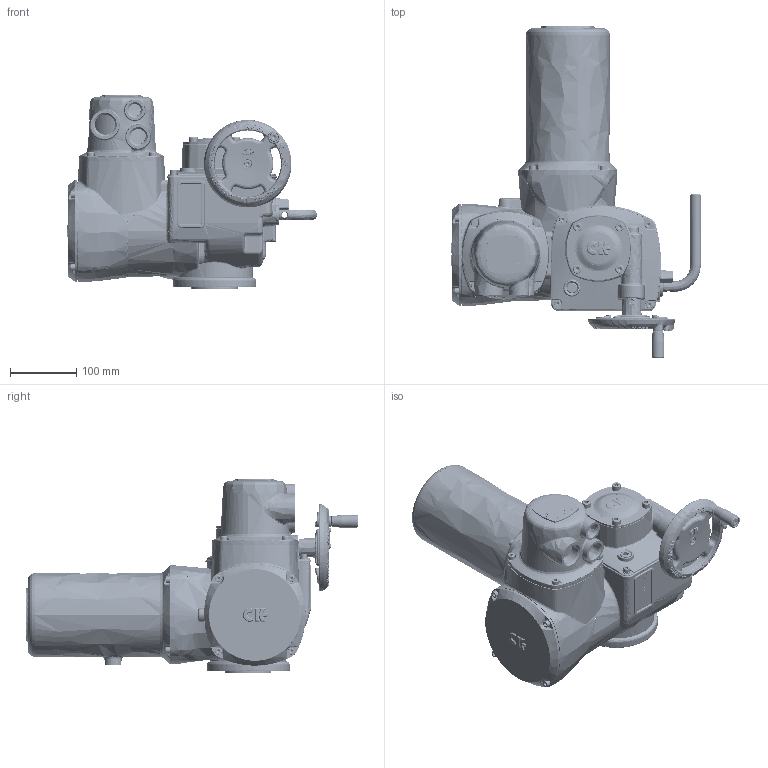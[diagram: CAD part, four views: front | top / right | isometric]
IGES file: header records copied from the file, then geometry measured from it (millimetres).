
Start section: C
Global section: file name: CK120 F10 NON THRUST BASE - LARGE MOTOR.igs; native system: By Siemens PLM Incorporated; preprocessor: XPlus GENERIC/IGES 19.0.9; author: Author; organization: Title; date: 20170823.183552; units: millimetre
Bounding box: 376.35 x 499.65 x 292.21 mm (x, y, z)
Surface area: 502577.3 mm2 (no closed solid volume)
Topology: 0 solids, 0 shells, 4860 faces, 28145 edges, 27910 vertices
Faces by surface type: bspline 4860
